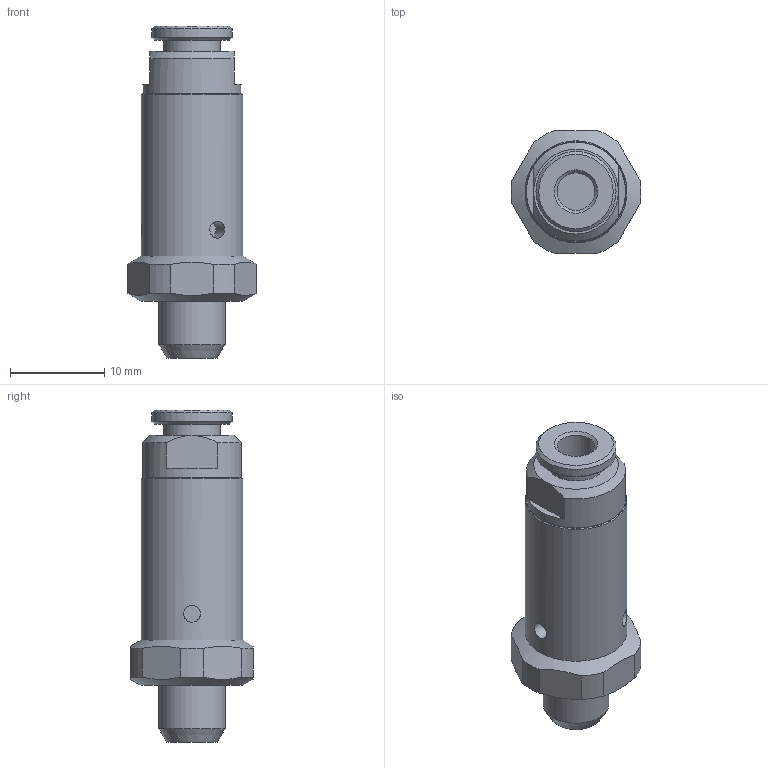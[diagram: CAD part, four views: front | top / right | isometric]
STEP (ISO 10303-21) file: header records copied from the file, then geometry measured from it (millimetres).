
FILE_DESCRIPTION(/* description */ ('VALVOLA S.RAPIDO IN Tubo d.4 OUT M7'),/* implementation_level */ '2;1');
FILE_NAME(/* name */ 'I:\Area Tecnica\Disegni\VARIE-3D\Componenti\600\6_02_##_##_L\6_02_04_M7_L.stp',/* time_stamp */ '2017-01-20T13:59:06+01:00',/* author */ ('maniean1'),/* organization */ ('Pneumax S.p.A.'),/* preprocessor_version */ 'ST-DEVELOPER v15.2',/* originating_system */ 'Autodesk Inventor 2014',/* authorisation */ '');
FILE_SCHEMA (('AUTOMOTIVE_DESIGN { 1 0 10303 214 3 1 1 }'));
Length unit declared in the file: millimetre
Products named in the file (1): 6_02_04_M7_L
Bounding box: 13.77 x 13 x 35.2 mm (x, y, z)
Volume: 2745.2 mm3; surface area: 1569.5 mm2
Topology: 1 solids, 1 shells, 44 faces, 94 edges, 60 vertices
Faces by surface type: plane 20, cylinder 15, cone 9
Full cylindrical faces by diameter (mm): 1.8 x3, 4 x1, 6 x1, 7 x1, 8.5 x1, 10.5 x1, 10.8 x1
Entity records: 1186 total; most frequent: CARTESIAN_POINT 308, DIRECTION 184, ORIENTED_EDGE 150, AXIS2_PLACEMENT_3D 83, EDGE_CURVE 75, EDGE_LOOP 68, VERTEX_POINT 57, ADVANCED_FACE 44
